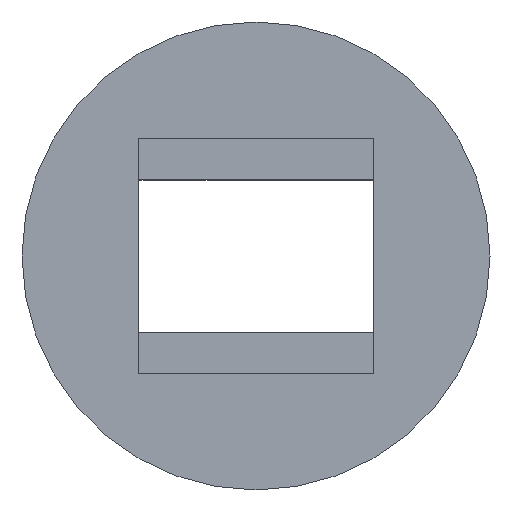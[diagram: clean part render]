
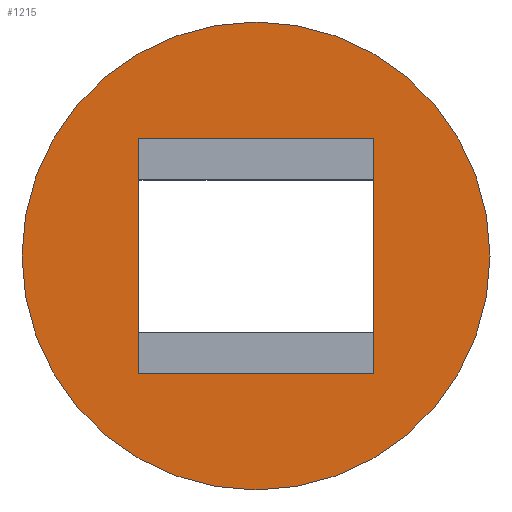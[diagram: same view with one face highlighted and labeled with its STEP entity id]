
A CAD part, top view. The second image highlights one B-rep face of the part: STEP entity #1215.
In plain terms, the highlighted planar face has unit normal (0, 0, 1).
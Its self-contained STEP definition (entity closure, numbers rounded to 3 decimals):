
#100=CARTESIAN_POINT('',(9.949,-0.,15.08));
#101=VERTEX_POINT('',#100);
#304=CARTESIAN_POINT('',(0.,0.,15.08));
#305=DIRECTION('',(-0.,-0.,-1.));
#306=DIRECTION('',(1.,0.,-0.));
#307=AXIS2_PLACEMENT_3D('',#304,#305,#306);
#308=CIRCLE('',#307,9.949);
#309=EDGE_CURVE('',#101,#101,#308,.T.);
#1173=CARTESIAN_POINT('',(-12.013,17.,15.08));
#1174=DIRECTION('',(0.,0.,1.));
#1175=DIRECTION('',(1.,0.,0.));
#1176=AXIS2_PLACEMENT_3D('',#1173,#1174,#1175);
#1177=PLANE('',#1176);
#1178=CARTESIAN_POINT('',(-5.,-5.,15.08));
#1179=VERTEX_POINT('',#1178);
#1180=CARTESIAN_POINT('',(5.,-5.,15.08));
#1181=VERTEX_POINT('',#1180);
#1182=CARTESIAN_POINT('',(-5.,-5.,15.08));
#1183=DIRECTION('',(1.,0.,-0.));
#1184=VECTOR('',#1183,10.);
#1185=LINE('',#1182,#1184);
#1186=EDGE_CURVE('',#1179,#1181,#1185,.T.);
#1187=ORIENTED_EDGE('',*,*,#1186,.F.);
#1188=CARTESIAN_POINT('',(-5.,5.,15.08));
#1189=VERTEX_POINT('',#1188);
#1190=CARTESIAN_POINT('',(-5.,5.,15.08));
#1191=DIRECTION('',(0.,-1.,0.));
#1192=VECTOR('',#1191,10.);
#1193=LINE('',#1190,#1192);
#1194=EDGE_CURVE('',#1189,#1179,#1193,.T.);
#1195=ORIENTED_EDGE('',*,*,#1194,.F.);
#1196=CARTESIAN_POINT('',(5.,5.,15.08));
#1197=VERTEX_POINT('',#1196);
#1198=CARTESIAN_POINT('',(5.,5.,15.08));
#1199=DIRECTION('',(-1.,0.,0.));
#1200=VECTOR('',#1199,10.);
#1201=LINE('',#1198,#1200);
#1202=EDGE_CURVE('',#1197,#1189,#1201,.T.);
#1203=ORIENTED_EDGE('',*,*,#1202,.F.);
#1204=CARTESIAN_POINT('',(5.,-5.,15.08));
#1205=DIRECTION('',(0.,1.,0.));
#1206=VECTOR('',#1205,10.);
#1207=LINE('',#1204,#1206);
#1208=EDGE_CURVE('',#1181,#1197,#1207,.T.);
#1209=ORIENTED_EDGE('',*,*,#1208,.F.);
#1210=EDGE_LOOP('',(#1187,#1195,#1203,#1209));
#1211=FACE_BOUND('',#1210,.T.);
#1212=ORIENTED_EDGE('',*,*,#309,.F.);
#1213=EDGE_LOOP('',(#1212));
#1214=FACE_BOUND('',#1213,.T.);
#1215=ADVANCED_FACE('',(#1211,#1214),#1177,.T.);
